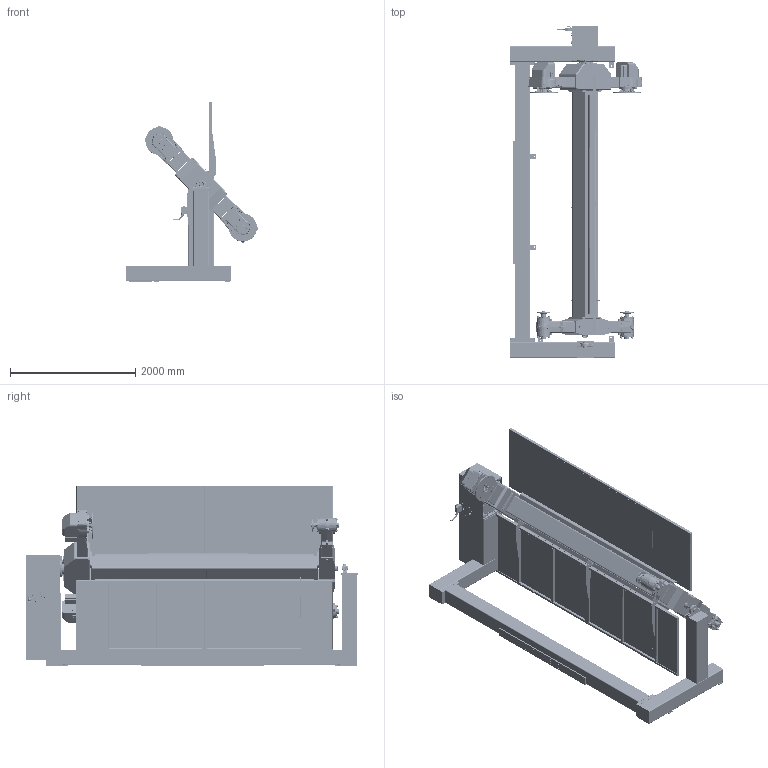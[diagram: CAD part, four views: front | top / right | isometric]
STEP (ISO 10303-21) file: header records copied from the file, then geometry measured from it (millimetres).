
FILE_DESCRIPTION(/* description */ (''),/* implementation_level */ '2;1');
FILE_NAME(/* name */ 'IRBP K1000 D1600 L 3500 v3.step',/* time_stamp */ '2024-01-26T09:11:26-07:00',/* author */ (''),/* organization */ (''),/* preprocessor_version */ 'ST-DEVELOPER v20',/* originating_system */ 'Autodesk Translation Framework v12.14.0.127',/* authorisation */ '');
FILE_SCHEMA (('AUTOMOTIVE_DESIGN { 1 0 10303 214 3 1 1 }','MODEL_BASED_INTEGRATED_MANUFACTURING_SCHEMA','PROCESS_PLANNING_SCHEMA'));
Products named in the file (1): IRBP K1000 D1600 L 3500
Bounding box: 2106.66 x 5309.22 x 2892.89 mm (x, y, z)
Volume: 1744307136.9 mm3; surface area: 54954266.6 mm2
Topology: 4 solids, 95 shells, 5528 faces, 13304 edges, 8271 vertices
Faces by surface type: plane 2699, cylinder 1537, bspline 733, cone 324, torus 190, sphere 45
Full cylindrical faces by diameter (mm): 5 x18, 5.5 x18, 8 x2, 9.5 x14, 10 x14, 10.2 x6, 12 x34, 13 x1, 14 x36, 16 x23, 17 x24, 17.5 x10, 18 x45, 19 x16, 20 x33, 21 x32, 22 x39, 22.14 x1, 23 x5, 24 x12, 24.33 x36, 25 x14, 29.6 x20, 30 x18, 31 x6, 33 x1, 34 x16, 37 x3, 40 x5, 45 x2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
Entity records: 251420 total; most frequent: CARTESIAN_POINT 120155, ORIENTED_EDGE 26446, DIRECTION 25454, EDGE_CURVE 13223, AXIS2_PLACEMENT_3D 9269, VERTEX_POINT 8271, LINE 6916, VECTOR 6916
